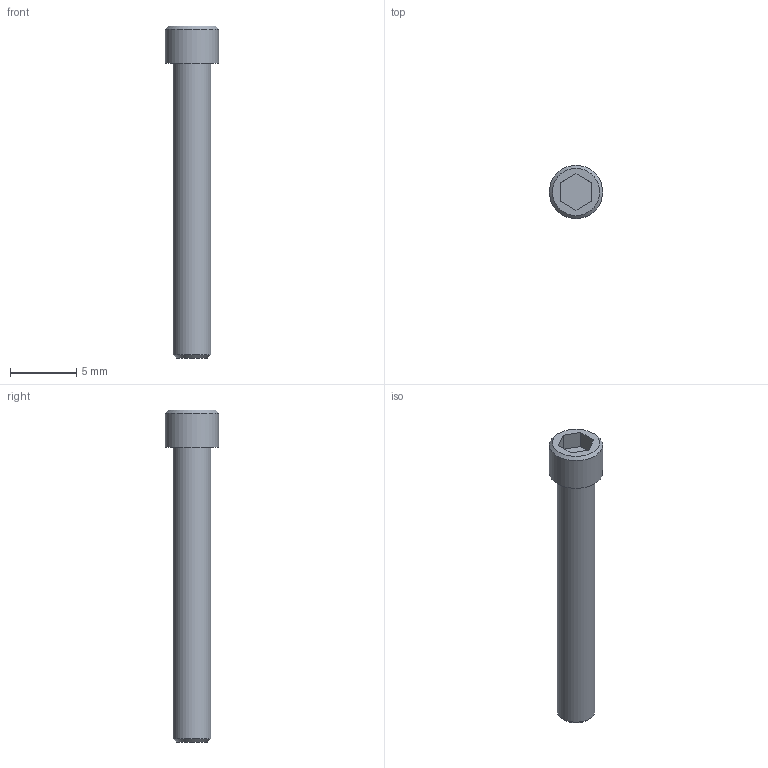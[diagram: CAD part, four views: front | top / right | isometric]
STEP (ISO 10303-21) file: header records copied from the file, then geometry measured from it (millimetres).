
FILE_DESCRIPTION((''),'2;1');
FILE_NAME('C:\Users\Stan\Desktop\import\SHCS 4-40 UNCx0.875.ipt.step','2011-08-18T17:44:33',(''),(''),'Autodesk Inventor 2012','Autodesk Inventor 2012','');
FILE_SCHEMA(('AUTOMOTIVE_DESIGN { 1 0 10303 214 1 1 1 1 }'));
Length unit declared in the file: inch
Products named in the file (1): SHCS 4-40 UNCx0.875
Bounding box: 4.01 x 4.01 x 25.02 mm (x, y, z)
Volume: 169.7 mm3; surface area: 266.8 mm2
Topology: 1 solids, 1 shells, 14 faces, 28 edges, 18 vertices
Faces by surface type: plane 10, cone 2, cylinder 2
Full cylindrical faces by diameter (mm): 2.845 x1, 4.013 x1
Entity records: 391 total; most frequent: DIRECTION 60, CARTESIAN_POINT 57, ORIENTED_EDGE 48, EDGE_CURVE 24, AXIS2_PLACEMENT_3D 21, EDGE_LOOP 20, VERTEX_POINT 18, VECTOR 18
